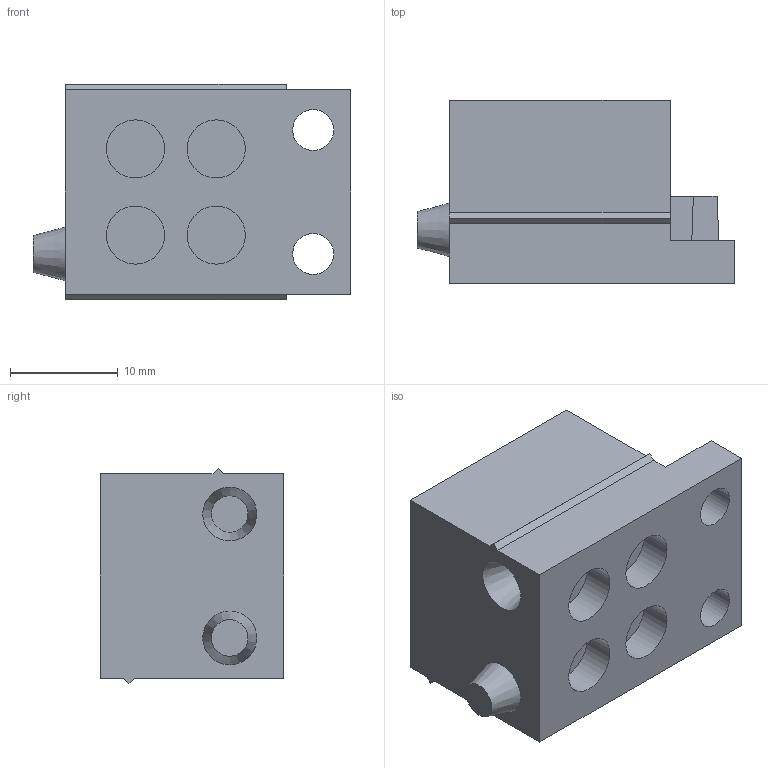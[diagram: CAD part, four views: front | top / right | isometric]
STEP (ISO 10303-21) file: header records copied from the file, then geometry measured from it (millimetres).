
FILE_DESCRIPTION(/* description */ ('STEP AP203'),/* implementation_level */ '2;1');
FILE_NAME(/* name */ '107846 TMS-STPG-GY',/* time_stamp */ '2024-10-04T14:43:22+02:00',/* author */ ('License CC BY-ND 4.0'),/* organization */ ('CADENAS'),/* preprocessor_version */ 'ST-DEVELOPER v19.3',/* originating_system */ 'PARTsolutions',/* authorisation */ ' ');
FILE_SCHEMA (('CONFIG_CONTROL_DESIGN'));
Length unit declared in the file: millimetre
Products named in the file (1): 107846 TMS-STPG-GY
Bounding box: 29.5 x 17 x 20 mm (x, y, z)
Volume: 6528.2 mm3; surface area: 2992.4 mm2
Topology: 1 solids, 1 shells, 44 faces, 96 edges, 64 vertices
Faces by surface type: plane 32, cylinder 10, cone 2
Full cylindrical faces by diameter (mm): 3.8 x2, 5.4 x8
Entity records: 1182 total; most frequent: DIRECTION 198, CARTESIAN_POINT 193, ORIENTED_EDGE 168, EDGE_CURVE 84, EDGE_LOOP 70, FACE_BOUND 70, AXIS2_PLACEMENT_3D 69, VERTEX_POINT 64
